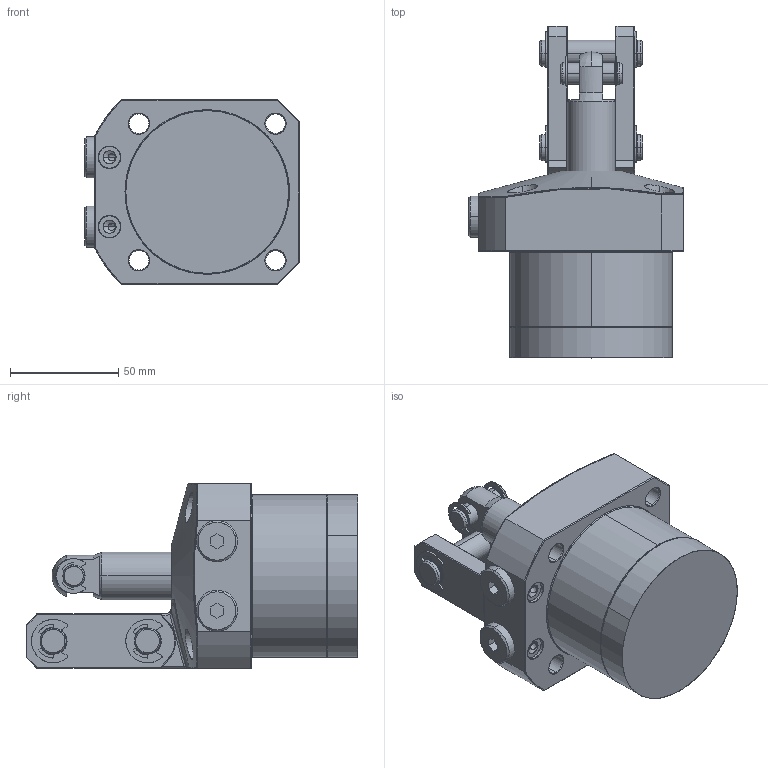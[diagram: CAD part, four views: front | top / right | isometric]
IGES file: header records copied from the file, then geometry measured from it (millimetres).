
Start section: SolidWorks IGES file using analytic representation for surfaces
Global section: file name: D:\abhilash\nijil\cylinder\LKA Series\con v lka\lk750\75lkcl\75CL PT\0402-0753.IGS; native system: SolidWorks 2010; preprocessor: SolidWorks 2010; author: nidheesh; date: 130730.102550; units: millimetre
Bounding box: 99 x 153 x 85 mm (x, y, z)
Surface area: 65596 mm2 (no closed solid volume)
Topology: 0 solids, 0 shells, 408 faces, 5323 edges, 5322 vertices
Faces by surface type: revolution 217, bspline 191
